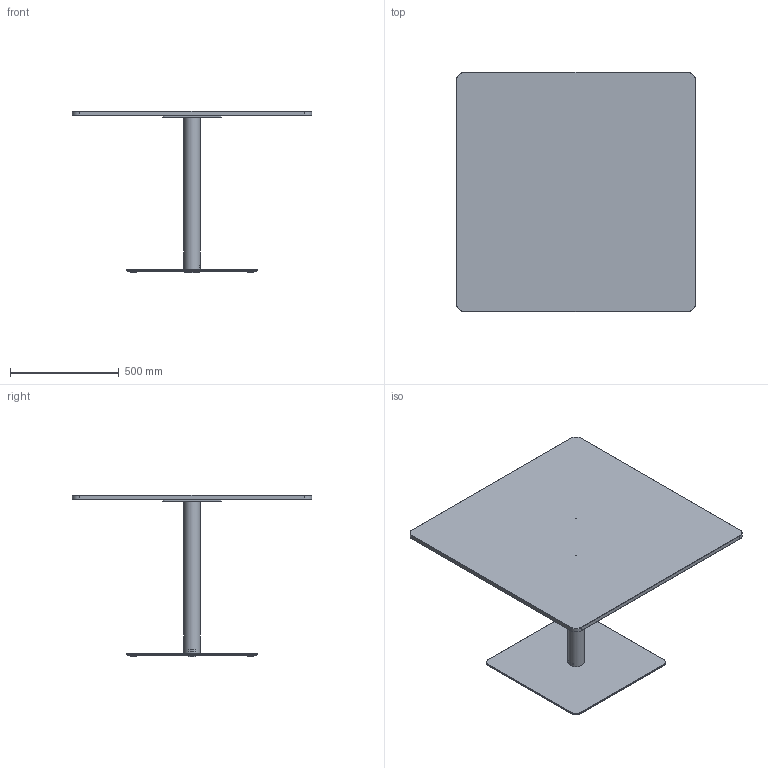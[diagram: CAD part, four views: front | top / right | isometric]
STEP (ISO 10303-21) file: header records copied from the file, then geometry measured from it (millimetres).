
FILE_DESCRIPTION( ('This file contains a STEP AP42 implementation' ,'as created by ZW3D STEP Interface translator.') ,'2;1' );
FILE_NAME( 'Henri - B_Carré - F3 - M1 - 1100 x 1100 x 750.stp' ,'24 912.17 826', (''), ('ZWCAD Software Co.'), 'Version 1.0', 'ZW3D to STEP translator', '' );
FILE_SCHEMA(('AUTOMOTIVE_DESIGN { 1 0 10303 214 1 1 1 1 }'));
Length unit declared in the file: millimetre
Products named in the file (14): 0; PIED BISTROT PARAMETRIQUE_; COLONNE ACIER Ø76 V.02_; TUB-D076-02_; PLA-R76B-01_; CROIX ACIER 370 V.02_; CRX-X370-02_; SOCLE ACIER L 600x600 V.02_; SCL-R600-02_; PLA-R30A-01_; PLA-R30A-01; WUERTH 0276063020 Euro-screw 6.3x2 Verzinkt_; PLATEAU BISTROT PARAMETRIQUE_; insert_m6_13_
Assembly tree (22 placements, depth 3):
  0
  PIED BISTROT PARAMETRIQUE_
    COLONNE ACIER Ø76 V.02_
      TUB-D076-02_
      PLA-R76B-01_  x2
    CROIX ACIER 370 V.02_
      CRX-X370-02_
    SOCLE ACIER L 600x600 V.02_
      SCL-R600-02_
      PLA-R30A-01_
      PLA-R30A-01  x3
    WUERTH 0276063020 Euro-screw 6.3x2 Verzinkt_
    PLATEAU BISTROT PARAMETRIQUE_
      insert_m6_13_  x8
Bounding box: 1100 x 1100 x 744 mm (x, y, z)
Volume: 27980437.6 mm3; surface area: 3753466.6 mm2
Topology: 19 solids, 19 shells, 537 faces, 1310 edges, 822 vertices
Faces by surface type: plane 262, bspline 121, cylinder 98, cone 55, torus 1
Full cylindrical faces by diameter (mm): 4.88 x1, 6 x8, 6.3 x1, 8 x45, 12 x2, 14 x2, 30 x4, 72 x1, 76 x1
Entity records: 12310 total; most frequent: CARTESIAN_POINT 3396, ORIENTED_EDGE 1624, DIRECTION 1519, EDGE_CURVE 812, VERTEX_POINT 518, VECTOR 513, LINE 513, AXIS2_PLACEMENT_3D 503
